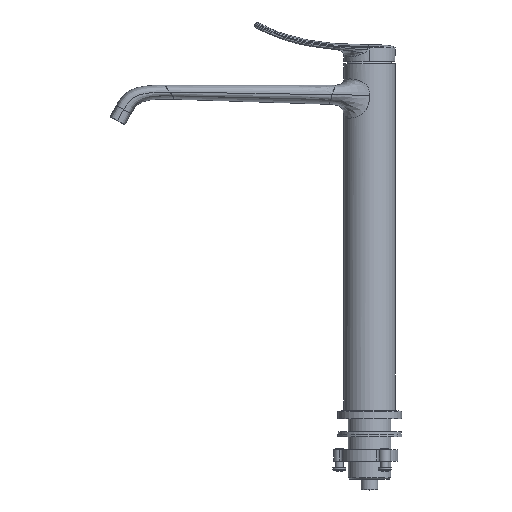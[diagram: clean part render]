
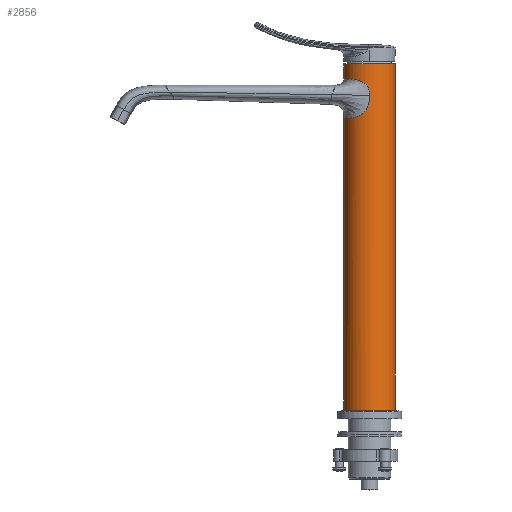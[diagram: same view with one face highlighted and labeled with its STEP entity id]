
A CAD part, top view. The second image highlights one B-rep face of the part: STEP entity #2856.
In plain terms, the highlighted cylindrical face has radius 20 mm (diameter 40 mm), a partial arc.
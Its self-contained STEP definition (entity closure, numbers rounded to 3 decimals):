
#347=CARTESIAN_POINT('',(0.,-8.,
20.));
#357=CARTESIAN_POINT('',(0.,-253.5,0.));
#358=DIRECTION('',(0.,-1.,0.));
#359=DIRECTION('',(1.,0.,0.));
#360=AXIS2_PLACEMENT_3D('',#357,#358,#359);
#362=CARTESIAN_POINT('',(0.,-8.,
20.));
#363=CARTESIAN_POINT('',(0.,-8.426,
20.));
#364=CARTESIAN_POINT('',(-0.016,-9.28,
20.));
#365=CARTESIAN_POINT('',(-0.112,-10.992,
20.));
#366=CARTESIAN_POINT('',(-0.367,-13.137,
19.998));
#367=CARTESIAN_POINT('',(-0.967,-15.682,
19.981));
#368=CARTESIAN_POINT('',(-1.962,-18.124,19.915));
#369=CARTESIAN_POINT('',(-3.413,-20.349,19.733));
#370=CARTESIAN_POINT('',(-5.285,-22.211,19.328));
#371=CARTESIAN_POINT('',(-7.452,-23.613,18.609));
#372=CARTESIAN_POINT('',(-9.726,-24.581,17.539));
#373=CARTESIAN_POINT('',(-11.93,-25.211,16.128));
#374=CARTESIAN_POINT('',(-14.635,-25.723,13.832));
#375=CARTESIAN_POINT('',(-17.431,-25.959,10.291));
#376=CARTESIAN_POINT('',(-19.528,-26.003,5.318));
#377=CARTESIAN_POINT('',(-20.,-26.,1.767));
#378=CARTESIAN_POINT('',(-20.,-26.,0.));
#380=CARTESIAN_POINT('',(-20.,5.,0.));
#381=CARTESIAN_POINT('',(-20.,5.,1.486));
#382=CARTESIAN_POINT('',(-19.667,5.003,4.457));
#383=CARTESIAN_POINT('',(-18.198,4.985,8.689));
#384=CARTESIAN_POINT('',(-15.835,4.886,12.481));
#385=CARTESIAN_POINT('',(-12.808,4.591,15.539));
#386=CARTESIAN_POINT('',(-9.657,3.992,17.628));
#387=CARTESIAN_POINT('',(-6.746,3.023,18.9));
#388=CARTESIAN_POINT('',(-4.274,1.648,19.579));
#389=CARTESIAN_POINT('',(-2.409,-0.069,
19.875));
#390=CARTESIAN_POINT('',(-1.054,-2.157,19.982));
#391=CARTESIAN_POINT('',(-0.194,-4.789,
20.001));
#392=CARTESIAN_POINT('',(0.,-6.873,
20.));
#393=CARTESIAN_POINT('',(0.,-8.,
20.));
#395=CARTESIAN_POINT('',(0.,16.5,0.));
#396=DIRECTION('',(0.,-1.,0.));
#397=DIRECTION('',(1.,0.,0.));
#398=AXIS2_PLACEMENT_3D('',#395,#396,#397);
#405=DIRECTION('',(0.,1.,0.));
#406=VECTOR('',#405,270.);
#407=CARTESIAN_POINT('',(20.,-253.5,0.));
#408=LINE('',#407,#406);
#414=DIRECTION('',(0.,1.,0.));
#415=VECTOR('',#414,11.5);
#416=CARTESIAN_POINT('',(-20.,5.,0.));
#417=LINE('',#416,#415);
#418=CARTESIAN_POINT('',(-20.,5.,0.));
#449=CARTESIAN_POINT('',(-20.,-26.,0.));
#451=DIRECTION('',(0.,1.,0.));
#452=VECTOR('',#451,227.5);
#453=CARTESIAN_POINT('',(-20.,-253.5,0.));
#454=LINE('',#453,#452);
#729=VERTEX_POINT('',#347);
#733=VERTEX_POINT('',#418);
#735=VERTEX_POINT('',#449);
#802=CARTESIAN_POINT('',(20.,-253.5,0.));
#803=CARTESIAN_POINT('',(-20.,-253.5,0.));
#804=VERTEX_POINT('',#802);
#805=VERTEX_POINT('',#803);
#806=CARTESIAN_POINT('',(20.,16.5,0.));
#807=CARTESIAN_POINT('',(-20.,16.5,0.));
#808=VERTEX_POINT('',#806);
#809=VERTEX_POINT('',#807);
#2837=CARTESIAN_POINT('',(0.,30.,0.));
#2838=DIRECTION('',(0.,-1.,0.));
#2839=DIRECTION('',(-1.,0.,0.));
#2840=AXIS2_PLACEMENT_3D('',#2837,#2838,#2839);
#2841=CYLINDRICAL_SURFACE('',#2840,20.);
#2843=ORIENTED_EDGE('',*,*,#2842,.T.);
#2845=ORIENTED_EDGE('',*,*,#2844,.T.);
#2846=ORIENTED_EDGE('',*,*,#2668,.F.);
#2847=ORIENTED_EDGE('',*,*,#2829,.F.);
#2849=ORIENTED_EDGE('',*,*,#2848,.T.);
#2851=ORIENTED_EDGE('',*,*,#2850,.F.);
#2853=ORIENTED_EDGE('',*,*,#2852,.F.);
#2854=EDGE_LOOP('',(#2843,#2845,#2846,#2847,#2849,#2851,#2853));
#2855=FACE_OUTER_BOUND('',#2854,.F.);
#2856=ADVANCED_FACE('',(#2855),#2841,.T.);
#361=CIRCLE('',#360,20.);
#379=B_SPLINE_CURVE_WITH_KNOTS('',3,(#362,#363,#364,#365,#366,#367,#368,#369,
#370,#371,#372,#373,#374,#375,#376,#377,#378),.UNSPECIFIED.,.F.,.F.,(4,1,1,1,1,
1,1,1,1,1,1,1,1,1,4),(0.,0.031,0.063,
0.125,0.188,0.25,0.313,
0.375,0.438,0.5,0.563,
0.625,0.75,0.875,1.),.UNSPECIFIED.);
#394=B_SPLINE_CURVE_WITH_KNOTS('',3,(#380,#381,#382,#383,#384,#385,#386,#387,
#388,#389,#390,#391,#392,#393),.UNSPECIFIED.,.F.,.F.,(4,1,1,1,1,1,1,1,1,1,1,4),(
0.,0.091,0.182,0.273,0.364,
0.455,0.545,0.636,0.727,
0.818,0.909,1.),.UNSPECIFIED.);
#399=CIRCLE('',#398,20.);
#2668=EDGE_CURVE('',#729,#735,#379,.T.);
#2829=EDGE_CURVE('',#733,#729,#394,.T.);
#2842=EDGE_CURVE('',#804,#805,#361,.T.);
#2844=EDGE_CURVE('',#805,#735,#454,.T.);
#2848=EDGE_CURVE('',#733,#809,#417,.T.);
#2850=EDGE_CURVE('',#808,#809,#399,.T.);
#2852=EDGE_CURVE('',#804,#808,#408,.T.);
